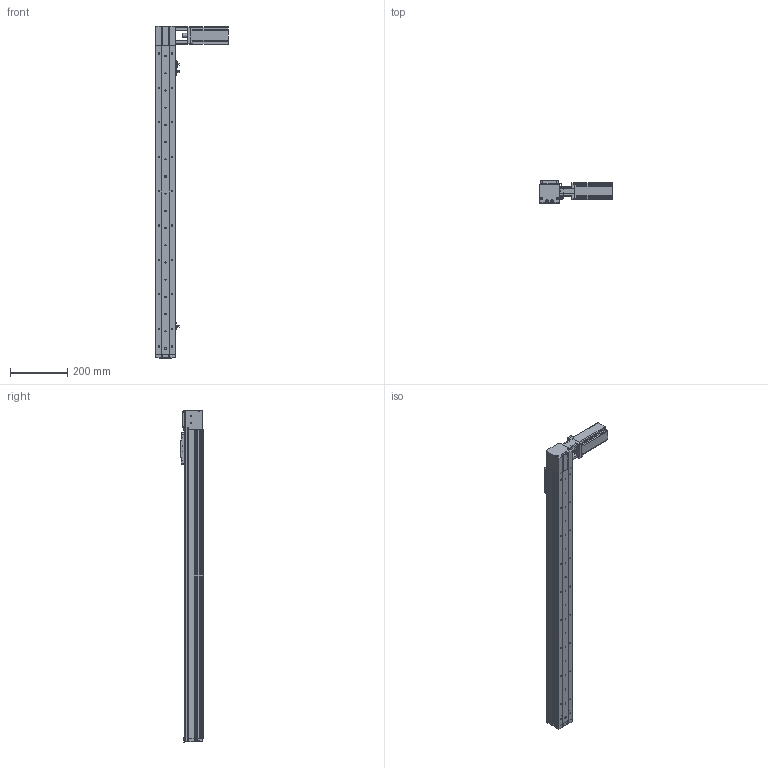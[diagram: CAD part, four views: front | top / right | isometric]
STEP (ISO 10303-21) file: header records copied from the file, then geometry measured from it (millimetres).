
FILE_DESCRIPTION (( 'STEP AP214' ), '1' );
FILE_NAME ('KSD68BS-S900-MRT-CR.STEP', '2019-08-27T07:12:13', ( '微软用户' ), ( '微软中国' ), 'SwSTEP 2.0', 'SolidWorks 2014', '' );
FILE_SCHEMA (( 'AUTOMOTIVE_DESIGN' ));
Length unit declared in the file: millimetre
Products named in the file (13): KSD68BS-S900-MRT-CR; KSD68BS 900行程底板全封闭; 台达ECMA－C20604AS伺服电机（400W); U倰嫖萇EEㄜSX672; 感应片68宽全封闭; 68单导轨全封闭同步带安装板; 68单导轨全封闭同步带电机座左; 68宽单导轨全封闭同步带端板; KSD68BS 900行程侧板全封闭; 68宽单导轨全封闭丝杆传动安装板1防护罩; 68遵裔啣揤啣1; KSD68BS 900行程盖板全封闭; 100遵鎮湛假蚾啣1
Assembly tree (16 placements, depth 2):
  KSD68BS-S900-MRT-CR
    KSD68BS 900行程底板全封闭
    台达ECMA－C20604AS伺服电机（400W)
    U倰嫖萇EEㄜSX672  x3
    感应片68宽全封闭
    68单导轨全封闭同步带安装板
    68单导轨全封闭同步带电机座左
    68宽单导轨全封闭同步带端板
    KSD68BS 900行程侧板全封闭  x2
    68宽单导轨全封闭丝杆传动安装板1防护罩
    68遵裔啣揤啣1  x2
    KSD68BS 900行程盖板全封闭
    100遵鎮湛假蚾啣1
Bounding box: 252.7 x 77 x 1158.1 mm (x, y, z)
Volume: 2350465 mm3; surface area: 870020.7 mm2
Topology: 17 solids, 17 shells, 1427 faces, 4068 edges, 2600 vertices
Faces by surface type: cylinder 669, plane 598, cone 160
Entity records: 45438 total; most frequent: CARTESIAN_POINT 7791, DIRECTION 6745, ORIENTED_EDGE 6464, EDGE_CURVE 3232, AXIS2_PLACEMENT_3D 2434, VERTEX_POINT 2118, VECTOR 1877, LINE 1877
